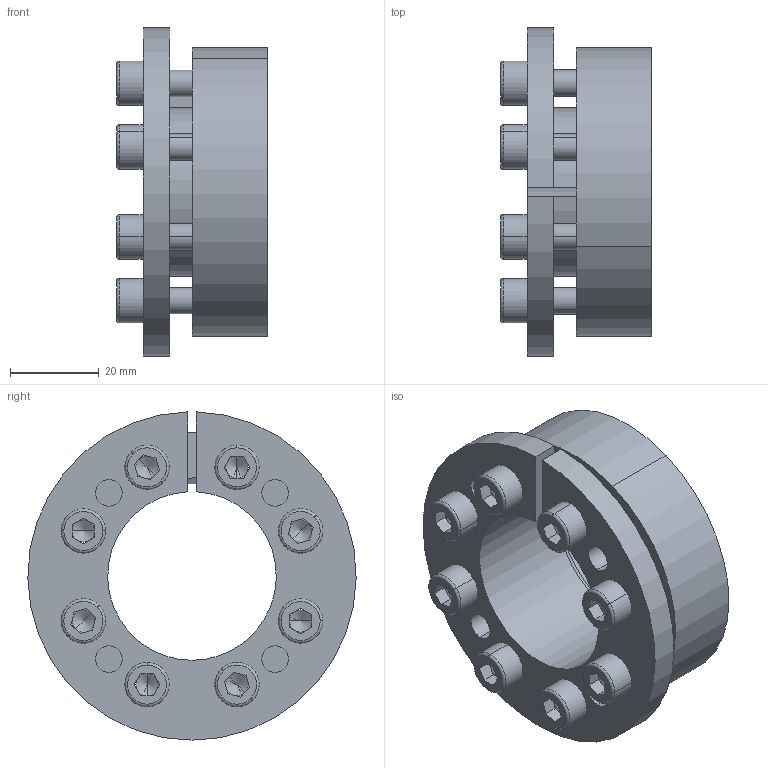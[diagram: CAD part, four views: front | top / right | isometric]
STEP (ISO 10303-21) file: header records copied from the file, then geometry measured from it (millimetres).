
FILE_DESCRIPTION (( 'STEP AP203' ), '1' );
FILE_NAME ('D3-38-65.STEP', '2017-10-12T05:59:04', ( 'MYCOM' ), ( '' ), 'SwSTEP 2.0', 'SolidWorks 2015', '' );
FILE_SCHEMA (( 'CONFIG_CONTROL_DESIGN' ));
Length unit declared in the file: millimetre
Products named in the file (1): D3-38-65
Bounding box: 34.01 x 73.99 x 73.99 mm (x, y, z)
Surface area: 28660.2 mm2 (no closed solid volume)
Topology: 0 solids, 18 shells, 224 faces, 571 edges, 346 vertices
Faces by surface type: plane 109, cylinder 80, cone 19, torus 16
Entity records: 6756 total; most frequent: DIRECTION 1246, CARTESIAN_POINT 1144, ORIENTED_EDGE 1044, EDGE_CURVE 555, AXIS2_PLACEMENT_3D 470, VERTEX_POINT 346, VECTOR 306, LINE 306
